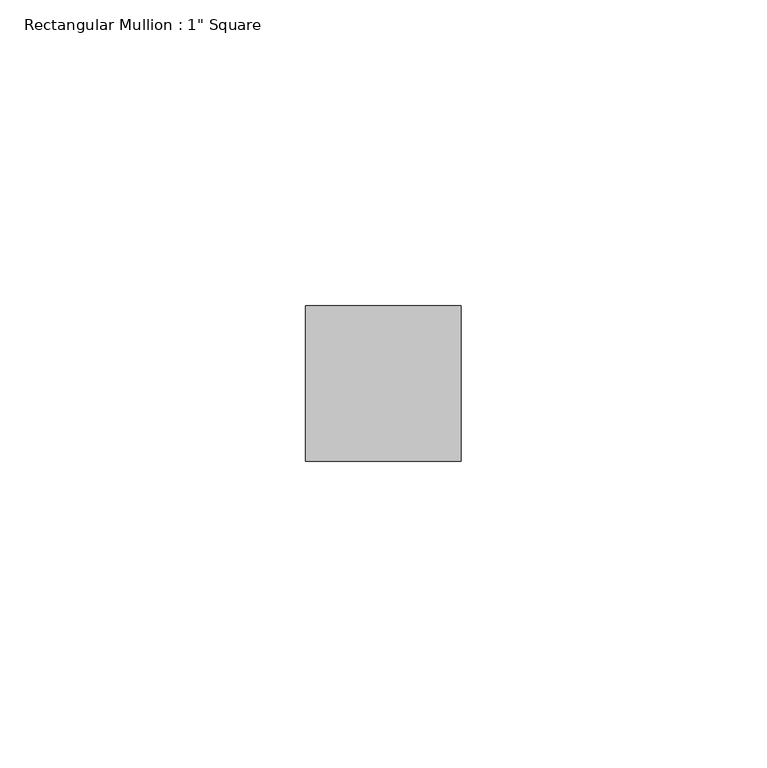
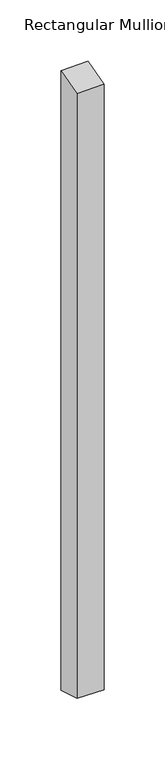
"""IFC4 building model written with IfcOpenShell, lengths in millimetres: member geometry."""

from ifc_helpers import new_model, si_unit, origin, place, context, project, spatial, faceted_brep, source, transform, mapped, element, save


def member_afb76c1e(model_context):
    return source(origin(), model_context, "Body", "Brep", [
        faceted_brep([(-25.4, 12.7, 3.15026), (0.0, 12.7, 3.6983026), (0.0, 12.7, -613.2983026), (-25.4, 12.7, -612.75026), (-25.4, -12.7, -4.2463451), (-25.4, -12.7, -605.3536549), (0.0, -12.7, -3.6983026), (0.0, -12.7, -605.9016974)], [[[0, 1, 2, 3]], [[4, 0, 3, 5]], [[6, 4, 5, 7]], [[1, 6, 7, 2]], [[1, 0, 4, 6]], [[2, 7, 5, 3]]]),
    ])


if __name__ == "__main__":
    model = new_model("IFC4")
    model_context = context("Model", 3, world=origin())
    ifc_project = project(units=[si_unit("LENGTHUNIT", "METRE", prefix="MILLI")], contexts=[model_context])
    site = spatial("IfcSite", under=ifc_project)
    building = spatial("IfcBuilding", under=site)
    placement = place(None, origin())
    member_shape = member_afb76c1e(model_context)
    element("IfcMember", 1, ObjectType="Rectangular Mullion : 1\" Square", at=placement, inside=building, context=model_context, shape_type="MappedRepresentation", body=[
        mapped(member_shape, transform((0.0, 0.0, 0.0), x_axis=(1.0, 0.0, 0.0), y_axis=(0.0, 1.0, 0.0), z_axis=(0.0, 0.0, 1.0))),
    ])
    save(model, "model.ifc")
